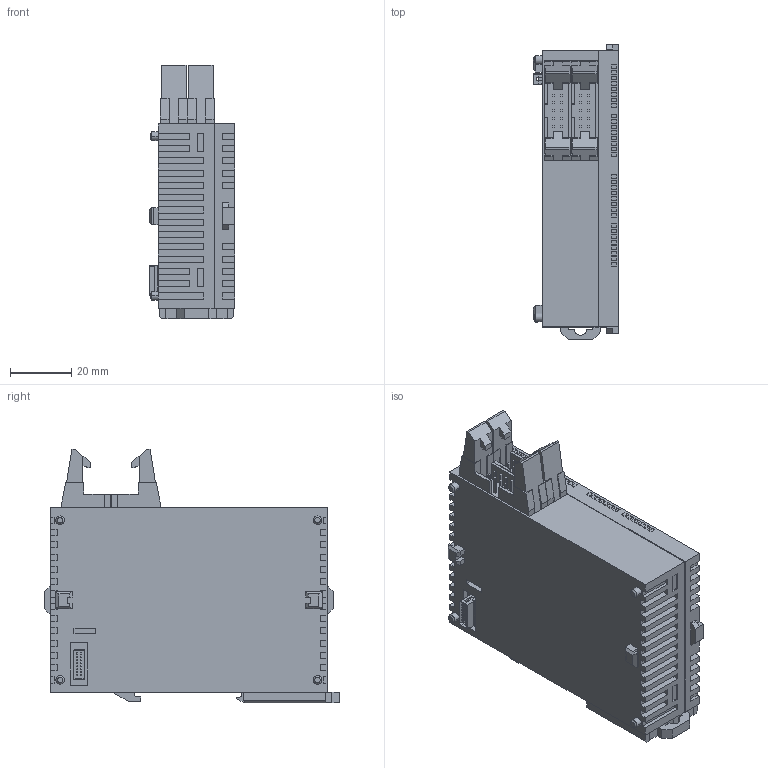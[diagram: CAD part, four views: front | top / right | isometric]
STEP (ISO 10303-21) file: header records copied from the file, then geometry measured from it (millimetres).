
FILE_DESCRIPTION (( 'STEP AP203' ), '1' );
FILE_NAME ('afp0re16x.STEP', '2013-06-28T06:03:20', ( 'sunx' ), ( 'sunx' ), 'SwSTEP 2.0', 'SolidWorks 2010', '' );
FILE_SCHEMA (( 'CONFIG_CONTROL_DESIGN' ));
Length unit declared in the file: millimetre
Products named in the file (1): afp0re16x
Bounding box: 28 x 96.05 x 82.7 mm (x, y, z)
Volume: 137881 mm3; surface area: 27845.1 mm2
Topology: 1 solids, 1 shells, 940 faces, 2511 edges, 1662 vertices
Faces by surface type: plane 883, cylinder 33, bspline 16, cone 8
Entity records: 28974 total; most frequent: CARTESIAN_POINT 5354, ORIENTED_EDGE 5022, DIRECTION 4443, EDGE_CURVE 2511, LINE 2429, VECTOR 2429, VERTEX_POINT 1662, EDGE_LOOP 1037
